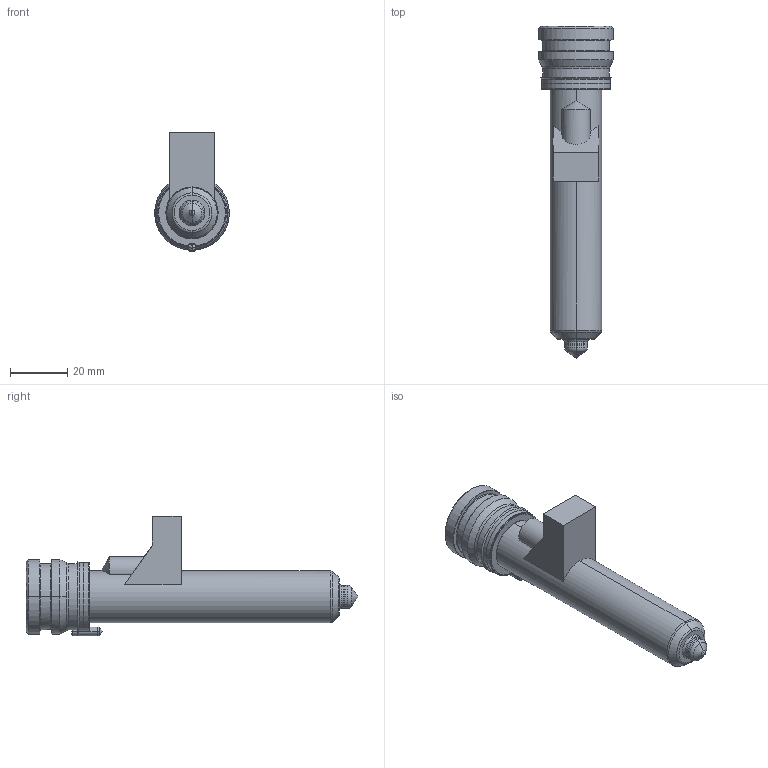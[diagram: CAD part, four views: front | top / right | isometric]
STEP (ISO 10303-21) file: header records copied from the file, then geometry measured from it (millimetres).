
FILE_DESCRIPTION((''),'2;1');
FILE_NAME('MPN-08-24-TX8-096-M','2026-02-05T13:26:04',('UPTIO'),('Thermoplay S.p.A.'),'CREO PARAMETRIC BY PTC INC, 2023494','CREO PARAMETRIC BY PTC INC, 2023494','');
FILE_SCHEMA(('CONFIG_CONTROL_DESIGN','SHAPE_APPEARANCE_LAYERS_GROUPS'));
Length unit declared in the file: millimetre
Products named in the file (1): MPN-08-24-TX8-096-M
Bounding box: 26 x 115.5 x 41.5 mm (x, y, z)
Volume: 22870.1 mm3; surface area: 29821.4 mm2
Topology: 2 solids, 3 shells, 532 faces, 1392 edges, 855 vertices
Faces by surface type: cylinder 174, plane 144, bspline 77, torus 62, cone 58, sphere 11, extrusion 6
Entity records: 28047 total; most frequent: CARTESIAN_POINT 12423, ORIENTED_EDGE 2762, DIRECTION 2491, EDGE_CURVE 1381, AXIS2_PLACEMENT_3D 974, VERTEX_POINT 855, EDGE_LOOP 562, VECTOR 543
